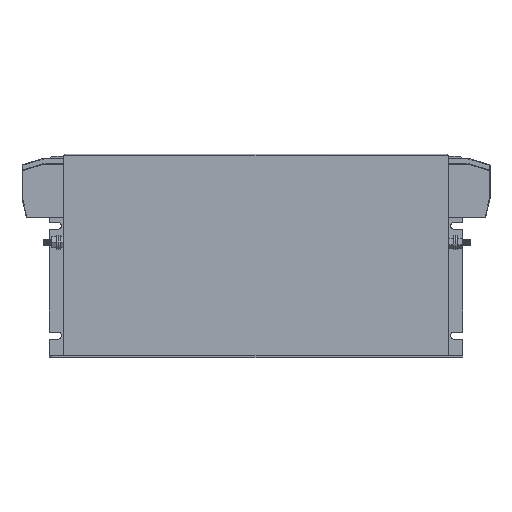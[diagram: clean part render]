
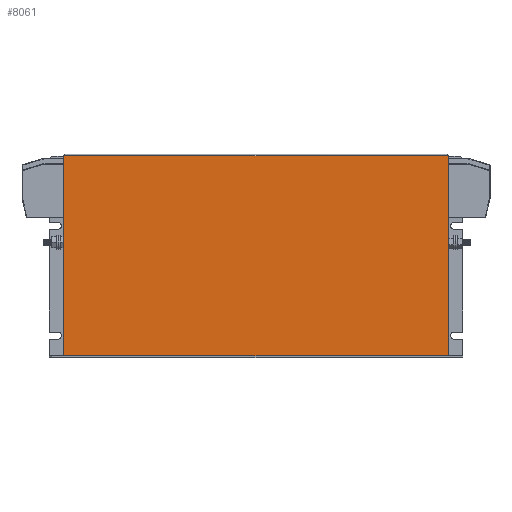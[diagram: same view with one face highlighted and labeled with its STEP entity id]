
A CAD part, top view. The second image highlights one B-rep face of the part: STEP entity #8061.
In plain terms, the highlighted planar face has unit normal (0, 0, 1).
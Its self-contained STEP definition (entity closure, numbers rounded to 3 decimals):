
#146 = EDGE_CURVE ( 'NONE', #1296, #7663, #5544, .T. ) ;
#240 = CARTESIAN_POINT ( 'NONE',  ( 13., 1.5, 1.5 ) ) ;
#599 = DIRECTION ( 'NONE',  ( 0., -1., 0. ) ) ;
#972 = CARTESIAN_POINT ( 'NONE',  ( 13., 183.5, 1.5 ) ) ;
#1244 = DIRECTION ( 'NONE',  ( 1., 0., 0. ) ) ;
#1296 = VERTEX_POINT ( 'NONE', #1672 ) ;
#1414 = CARTESIAN_POINT ( 'NONE',  ( 363., 185., 1.5 ) ) ;
#1482 = LINE ( 'NONE', #9347, #7597 ) ;
#1552 = EDGE_CURVE ( 'NONE', #7952, #8019, #2263, .T. ) ;
#1672 = CARTESIAN_POINT ( 'NONE',  ( 363., 183.5, 1.5 ) ) ;
#2263 = LINE ( 'NONE', #3919, #6647 ) ;
#2701 = EDGE_LOOP ( 'NONE', ( #10082, #7904, #9200, #4158 ) ) ;
#3039 = CARTESIAN_POINT ( 'NONE',  ( 363., 1.5, 1.5 ) ) ;
#3919 = CARTESIAN_POINT ( 'NONE',  ( 13., 185., 1.5 ) ) ;
#4158 = ORIENTED_EDGE ( 'NONE', *, *, #4431, .T. ) ;
#4431 = EDGE_CURVE ( 'NONE', #8019, #7663, #1482, .T. ) ;
#4946 = VECTOR ( 'NONE', #5587, 1000. ) ;
#5141 = DIRECTION ( 'NONE',  ( -1., 0., 0. ) ) ;
#5544 = LINE ( 'NONE', #1414, #9904 ) ;
#5587 = DIRECTION ( 'NONE',  ( -1., 0., 0. ) ) ;
#6113 = EDGE_CURVE ( 'NONE', #1296, #7952, #7073, .T. ) ;
#6647 = VECTOR ( 'NONE', #10280, 1000. ) ;
#7073 = LINE ( 'NONE', #10359, #4946 ) ;
#7121 = FACE_OUTER_BOUND ( 'NONE', #2701, .T. ) ;
#7440 = DIRECTION ( 'NONE',  ( 0., 0., -1. ) ) ;
#7573 = PLANE ( 'NONE',  #10241 ) ;
#7597 = VECTOR ( 'NONE', #1244, 1000. ) ;
#7663 = VERTEX_POINT ( 'NONE', #3039 ) ;
#7904 = ORIENTED_EDGE ( 'NONE', *, *, #6113, .T. ) ;
#7952 = VERTEX_POINT ( 'NONE', #972 ) ;
#8019 = VERTEX_POINT ( 'NONE', #240 ) ;
#8061 = ADVANCED_FACE ( 'NONE', ( #7121 ), #7573, .F. ) ;
#8346 = CARTESIAN_POINT ( 'NONE',  ( 13., 185., 1.5 ) ) ;
#9200 = ORIENTED_EDGE ( 'NONE', *, *, #1552, .T. ) ;
#9347 = CARTESIAN_POINT ( 'NONE',  ( 13., 1.5, 1.5 ) ) ;
#9904 = VECTOR ( 'NONE', #599, 1000. ) ;
#10082 = ORIENTED_EDGE ( 'NONE', *, *, #146, .F. ) ;
#10241 = AXIS2_PLACEMENT_3D ( 'NONE', #8346, #7440, #5141 ) ;
#10280 = DIRECTION ( 'NONE',  ( 0., -1., 0. ) ) ;
#10359 = CARTESIAN_POINT ( 'NONE',  ( 13., 183.5, 1.5 ) ) ;
